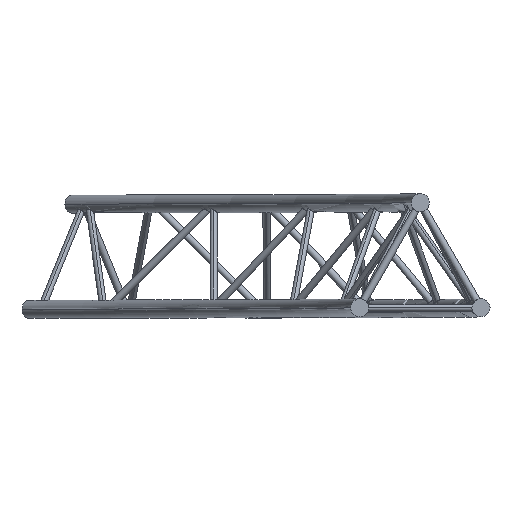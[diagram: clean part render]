
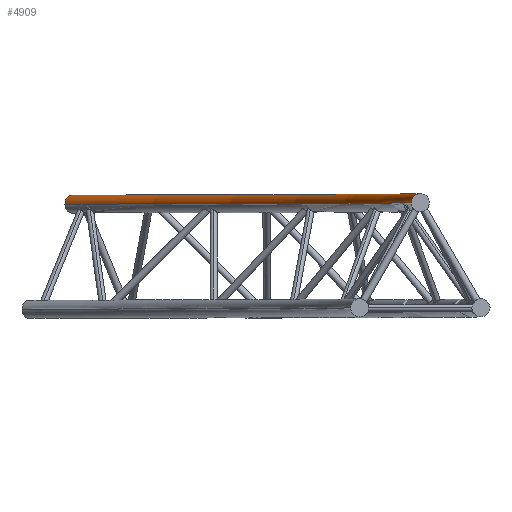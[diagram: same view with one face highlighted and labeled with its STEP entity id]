
A CAD part, top view. The second image highlights one B-rep face of the part: STEP entity #4909.
In plain terms, the highlighted toroidal (fillet/blend) face has major radius 3306.5 mm and minor radius 25 mm.
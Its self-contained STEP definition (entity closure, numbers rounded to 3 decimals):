
#858 = CARTESIAN_POINT ( 'NONE',  ( 2320.371, 194.567, -2320.371 ) ) ;
#865 = CARTESIAN_POINT ( 'NONE',  ( 3331.5, 194.567, 0. ) ) ;
#866 = CARTESIAN_POINT ( 'NONE',  ( 2355.726, 194.567, -2355.726 ) ) ;
#867 = DIRECTION ( 'NONE',  ( 0., 0., -1. ) ) ;
#868 = DIRECTION ( 'NONE',  ( 0., -1., 0. ) ) ;
#869 = CARTESIAN_POINT ( 'NONE',  ( 0., 194.567, 0. ) ) ;
#870 = AXIS2_PLACEMENT_3D ( 'NONE', #869, #868, #867 ) ;
#871 = CIRCLE ( 'NONE', #870, 3331.5 ) ;
#872 = DIRECTION ( 'NONE',  ( 0., 0., -1. ) ) ;
#873 = DIRECTION ( 'NONE',  ( 0., -1., 0. ) ) ;
#874 = CARTESIAN_POINT ( 'NONE',  ( 0., 194.567, 0. ) ) ;
#875 = AXIS2_PLACEMENT_3D ( 'NONE', #874, #873, #872 ) ;
#876 = CIRCLE ( 'NONE', #875, 3281.5 ) ;
#882 = CARTESIAN_POINT ( 'NONE',  ( 3281.5, 194.567, 0. ) ) ;
#4884 = EDGE_LOOP ( 'NONE', ( #4904, #4905, #4907, #4910 ) ) ;
#4897 = EDGE_CURVE ( 'NONE', #5142, #5134, #7888, .T. ) ;
#4904 = ORIENTED_EDGE ( 'NONE', *, *, #5139, .F. ) ;
#4905 = ORIENTED_EDGE ( 'NONE', *, *, #4912, .T. ) ;
#4907 = ORIENTED_EDGE ( 'NONE', *, *, #5137, .T. ) ;
#4909 = ADVANCED_FACE ( 'NONE', ( #8031 ), #8027, .T. ) ;
#4910 = ORIENTED_EDGE ( 'NONE', *, *, #4897, .F. ) ;
#4912 = EDGE_CURVE ( 'NONE', #5140, #5153, #8025, .T. ) ;
#5134 = VERTEX_POINT ( 'NONE', #882 ) ;
#5137 = EDGE_CURVE ( 'NONE', #5153, #5134, #876, .T. ) ;
#5139 = EDGE_CURVE ( 'NONE', #5140, #5142, #871, .T. ) ;
#5140 = VERTEX_POINT ( 'NONE', #866 ) ;
#5142 = VERTEX_POINT ( 'NONE', #865 ) ;
#5153 = VERTEX_POINT ( 'NONE', #858 ) ;
#7888 = CIRCLE ( 'NONE', #7927, 25. ) ;
#7924 = DIRECTION ( 'NONE',  ( 1., 0., 0. ) ) ;
#7925 = DIRECTION ( 'NONE',  ( 0., 0., 1. ) ) ;
#7926 = CARTESIAN_POINT ( 'NONE',  ( 3306.5, 194.567, 0. ) ) ;
#7927 = AXIS2_PLACEMENT_3D ( 'NONE', #7926, #7925, #7924 ) ;
#8018 = DIRECTION ( 'NONE',  ( 0.707, 0., -0.707 ) ) ;
#8019 = DIRECTION ( 'NONE',  ( 0.707, 0., 0.707 ) ) ;
#8020 = CARTESIAN_POINT ( 'NONE',  ( 2338.049, 194.567, -2338.049 ) ) ;
#8021 = AXIS2_PLACEMENT_3D ( 'NONE', #8020, #8019, #8018 ) ;
#8022 = DIRECTION ( 'NONE',  ( 0., 0., -1. ) ) ;
#8023 = DIRECTION ( 'NONE',  ( 0., -1., 0. ) ) ;
#8024 = AXIS2_PLACEMENT_3D ( 'NONE', #8026, #8023, #8022 ) ;
#8025 = CIRCLE ( 'NONE', #8021, 25. ) ;
#8026 = CARTESIAN_POINT ( 'NONE',  ( 0., 194.567, 0. ) ) ;
#8027 = TOROIDAL_SURFACE ( 'NONE', #8024, 3306.5, 25. ) ;
#8031 = FACE_OUTER_BOUND ( 'NONE', #4884, .T. ) ;
